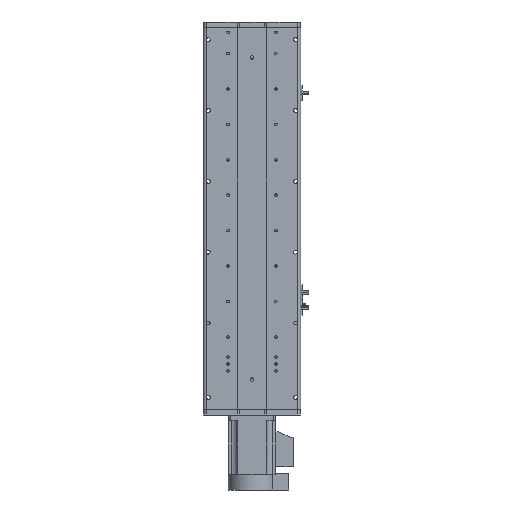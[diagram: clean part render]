
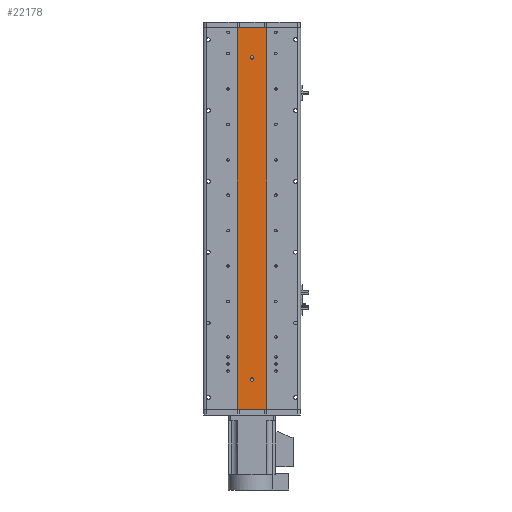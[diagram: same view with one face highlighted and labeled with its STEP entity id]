
A CAD part, front view. The second image highlights one B-rep face of the part: STEP entity #22178.
In plain terms, the highlighted planar face has unit normal (0, -1, 0).
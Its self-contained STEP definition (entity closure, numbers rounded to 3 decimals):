
#845 = EDGE_CURVE ( 'NONE', #17006, #30505, #13827, .T. ) ;
#1265 = CARTESIAN_POINT ( 'NONE',  ( -25., 1., 323. ) ) ;
#2039 = VECTOR ( 'NONE', #27474, 1000. ) ;
#2779 = DIRECTION ( 'NONE',  ( 0., 1., 0. ) ) ;
#2870 = CARTESIAN_POINT ( 'NONE',  ( 0., 1., -276. ) ) ;
#3373 = DIRECTION ( 'NONE',  ( 0., -1., 0. ) ) ;
#3439 = VERTEX_POINT ( 'NONE', #35328 ) ;
#3628 = FACE_OUTER_BOUND ( 'NONE', #37256, .T. ) ;
#3903 = EDGE_LOOP ( 'NONE', ( #6719, #8456 ) ) ;
#3932 = CARTESIAN_POINT ( 'NONE',  ( -25., 1., 323. ) ) ;
#5584 = CARTESIAN_POINT ( 'NONE',  ( 0., 1., 273. ) ) ;
#6719 = ORIENTED_EDGE ( 'NONE', *, *, #29674, .F. ) ;
#7105 = CIRCLE ( 'NONE', #28958, 3. ) ;
#7519 = LINE ( 'NONE', #3932, #36302 ) ;
#7807 = AXIS2_PLACEMENT_3D ( 'NONE', #19862, #2779, #22876 ) ;
#8136 = EDGE_CURVE ( 'NONE', #22478, #36873, #29801, .T. ) ;
#8277 = EDGE_CURVE ( 'NONE', #18349, #26886, #24389, .T. ) ;
#8388 = CARTESIAN_POINT ( 'NONE',  ( 25., 1., 323. ) ) ;
#8429 = ORIENTED_EDGE ( 'NONE', *, *, #9711, .F. ) ;
#8450 = DIRECTION ( 'NONE',  ( 0., 0., -1. ) ) ;
#8456 = ORIENTED_EDGE ( 'NONE', *, *, #8277, .F. ) ;
#9107 = CARTESIAN_POINT ( 'NONE',  ( 0., 1., 273. ) ) ;
#9711 = EDGE_CURVE ( 'NONE', #30505, #17006, #16192, .T. ) ;
#10595 = LINE ( 'NONE', #30357, #2039 ) ;
#10700 = ORIENTED_EDGE ( 'NONE', *, *, #8136, .F. ) ;
#10793 = LINE ( 'NONE', #8388, #32843 ) ;
#10907 = CARTESIAN_POINT ( 'NONE',  ( -25., 1., -323. ) ) ;
#11332 = CARTESIAN_POINT ( 'NONE',  ( 0., 1., -273. ) ) ;
#11965 = DIRECTION ( 'NONE',  ( 0., 0., -1. ) ) ;
#13827 = CIRCLE ( 'NONE', #16243, 3. ) ;
#14213 = DIRECTION ( 'NONE',  ( 0., 0., -1. ) ) ;
#15839 = AXIS2_PLACEMENT_3D ( 'NONE', #11332, #31445, #14213 ) ;
#16192 = CIRCLE ( 'NONE', #15839, 3. ) ;
#16243 = AXIS2_PLACEMENT_3D ( 'NONE', #20566, #3373, #23477 ) ;
#16985 = EDGE_CURVE ( 'NONE', #36873, #3439, #10793, .T. ) ;
#17006 = VERTEX_POINT ( 'NONE', #2870 ) ;
#18153 = EDGE_CURVE ( 'NONE', #22478, #27251, #7519, .T. ) ;
#18349 = VERTEX_POINT ( 'NONE', #30670 ) ;
#18368 = DIRECTION ( 'NONE',  ( 0., 0., -1. ) ) ;
#19030 = EDGE_CURVE ( 'NONE', #27251, #3439, #10595, .T. ) ;
#19862 = CARTESIAN_POINT ( 'NONE',  ( 25., 1., 323. ) ) ;
#20566 = CARTESIAN_POINT ( 'NONE',  ( 0., 1., -273. ) ) ;
#21013 = EDGE_LOOP ( 'NONE', ( #30134, #8429 ) ) ;
#22137 = VECTOR ( 'NONE', #30210, 1000. ) ;
#22178 = ADVANCED_FACE ( 'NONE', ( #34217, #26541, #3628 ), #34346, .F. ) ;
#22431 = ORIENTED_EDGE ( 'NONE', *, *, #16985, .F. ) ;
#22478 = VERTEX_POINT ( 'NONE', #1265 ) ;
#22747 = AXIS2_PLACEMENT_3D ( 'NONE', #5584, #25688, #8450 ) ;
#22852 = ORIENTED_EDGE ( 'NONE', *, *, #19030, .T. ) ;
#22876 = DIRECTION ( 'NONE',  ( 0., 0., 1. ) ) ;
#23477 = DIRECTION ( 'NONE',  ( 0., 0., -1. ) ) ;
#23496 = CARTESIAN_POINT ( 'NONE',  ( 0., 1., 270. ) ) ;
#24194 = ORIENTED_EDGE ( 'NONE', *, *, #18153, .T. ) ;
#24389 = CIRCLE ( 'NONE', #22747, 3. ) ;
#24428 = CARTESIAN_POINT ( 'NONE',  ( 25., 1., 323. ) ) ;
#25688 = DIRECTION ( 'NONE',  ( 0., -1., 0. ) ) ;
#26541 = FACE_BOUND ( 'NONE', #21013, .T. ) ;
#26886 = VERTEX_POINT ( 'NONE', #23496 ) ;
#27251 = VERTEX_POINT ( 'NONE', #10907 ) ;
#27474 = DIRECTION ( 'NONE',  ( 1., 0., 0. ) ) ;
#28091 = CARTESIAN_POINT ( 'NONE',  ( 0., 1., -270. ) ) ;
#28958 = AXIS2_PLACEMENT_3D ( 'NONE', #9107, #29200, #11965 ) ;
#29200 = DIRECTION ( 'NONE',  ( 0., -1., 0. ) ) ;
#29674 = EDGE_CURVE ( 'NONE', #26886, #18349, #7105, .T. ) ;
#29801 = LINE ( 'NONE', #24428, #22137 ) ;
#30134 = ORIENTED_EDGE ( 'NONE', *, *, #845, .F. ) ;
#30210 = DIRECTION ( 'NONE',  ( 1., 0., 0. ) ) ;
#30357 = CARTESIAN_POINT ( 'NONE',  ( 25., 1., -323. ) ) ;
#30505 = VERTEX_POINT ( 'NONE', #28091 ) ;
#30670 = CARTESIAN_POINT ( 'NONE',  ( 0., 1., 276. ) ) ;
#31445 = DIRECTION ( 'NONE',  ( 0., -1., 0. ) ) ;
#32843 = VECTOR ( 'NONE', #34314, 1000. ) ;
#34217 = FACE_BOUND ( 'NONE', #3903, .T. ) ;
#34314 = DIRECTION ( 'NONE',  ( 0., 0., -1. ) ) ;
#34346 = PLANE ( 'NONE',  #7807 ) ;
#34997 = CARTESIAN_POINT ( 'NONE',  ( 25., 1., 323. ) ) ;
#35328 = CARTESIAN_POINT ( 'NONE',  ( 25., 1., -323. ) ) ;
#36302 = VECTOR ( 'NONE', #18368, 1000. ) ;
#36873 = VERTEX_POINT ( 'NONE', #34997 ) ;
#37256 = EDGE_LOOP ( 'NONE', ( #22852, #22431, #10700, #24194 ) ) ;
